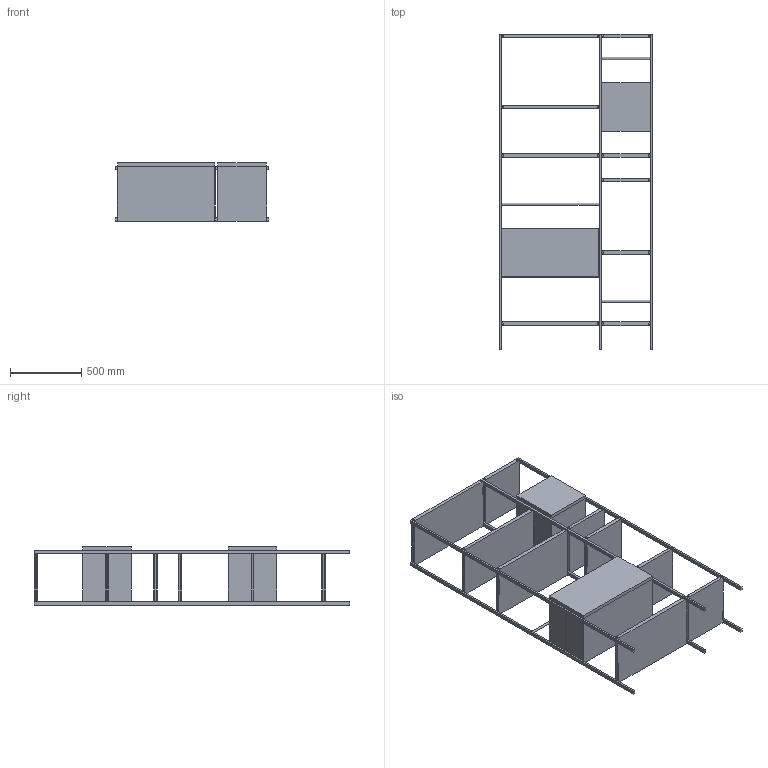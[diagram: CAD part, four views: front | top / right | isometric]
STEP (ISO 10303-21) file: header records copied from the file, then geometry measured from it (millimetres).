
FILE_DESCRIPTION(/* description */ (''),/* implementation_level */ '2;1');
FILE_NAME(/* name */ 'C:\Users\Dario\Desktop\acerbis 25-05\outline A.stp',/* time_stamp */ '2016-05-25T12:37:29+02:00',/* author */ ('Dario'),/* organization */ (''),/* preprocessor_version */ 'ST-DEVELOPER v15.6',/* originating_system */ 'Autodesk Inventor 2015',/* authorisation */ '');
FILE_SCHEMA (('AUTOMOTIVE_DESIGN { 1 0 10303 214 3 1 1 }'));
Length unit declared in the file: millimetre
Products named in the file (23): montante-15x25; montante-15x25_MIR; modulo 68x34; modulo 34x34; controventatura 385; controventatura 385_MIR2; controventatura 385_MIR3; mensola 680x385; mensola 340x385; reggilibro 686; controventatura 385_MIR8; anta 34x68; anta 34x34; controventatura 385_MIR9; controventatura 385_MIR2_MIR1; controventatura 385_MIR3_MIR1; mensola 680x385_MIR1; mensola 340x385_MIR1; controventatura 385_MIR10; controventatura 385_MIR11; reggilibro 346; controventatura 385_MIR12; mod 1077
Bounding box: 1077 x 2210 x 410 mm (x, y, z)
Volume: 94111620.9 mm3; surface area: 9370079.9 mm2
Topology: 44 solids, 44 shells, 243 faces, 459 edges, 306 vertices
Faces by surface type: plane 196, cylinder 47
Full cylindrical faces by diameter (mm): 15 x25
Entity records: 3906 total; most frequent: DIRECTION 682, CARTESIAN_POINT 605, ORIENTED_EDGE 480, AXIS2_PLACEMENT_3D 245, EDGE_CURVE 240, LINE 192, VECTOR 192, VERTEX_POINT 168
